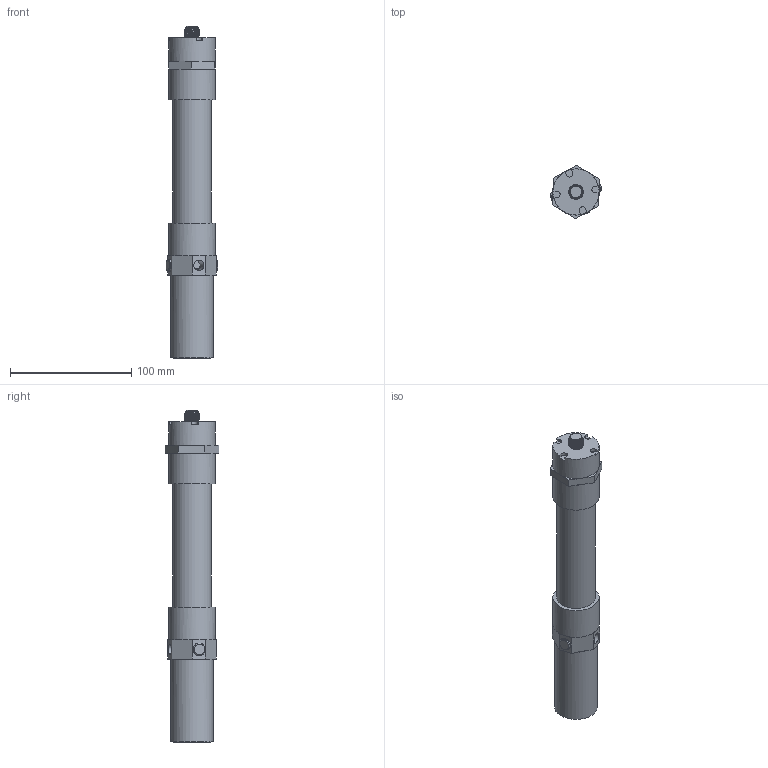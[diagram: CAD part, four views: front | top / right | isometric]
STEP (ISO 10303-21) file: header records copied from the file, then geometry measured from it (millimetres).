
FILE_DESCRIPTION(/* description */ (''),/* implementation_level */ '2;1');
FILE_NAME(/* name */ 'ASSY,VFIA,22MM,CLAMP MOUNT,100MM,S3 (614-49491) STEP FILE - REV C.stp',/* time_stamp */ '2026-01-21T08:19:23-05:00',/* author */ ('ASSY,VFIA,22MM,CLAMP MOUNT,100MM,S3'),/* organization */ ('CenterLine (Windsor) Limited'),/* preprocessor_version */ 'ST-DEVELOPER v20',/* originating_system */ 'Autodesk Inventor 2024',/* authorisation */ '');
FILE_SCHEMA (('AUTOMOTIVE_DESIGN { 1 0 10303 214 3 1 1 }'));
Length unit declared in the file: centimetre
Products named in the file (2): Assembly3; [Primary]_ASSY,VFIA,22MM,CLAMP MOUNT,100MM,S3
Assembly tree (1 placements, depth 2):
  Assembly3
    [Primary]_ASSY,VFIA,22MM,CLAMP MOUNT,100MM,S3
Bounding box: 42.81 x 43.98 x 273.87 mm (x, y, z)
Volume: 252519.1 mm3; surface area: 33841.7 mm2
Topology: 1 solids, 1 shells, 117 faces, 283 edges, 178 vertices
Faces by surface type: plane 73, cylinder 25, bspline 9, cone 8, torus 2
Full cylindrical faces by diameter (mm): 8.731 x2, 10 x1, 10.6 x2, 12 x5, 31.75 x1, 34.925 x1, 38.1 x3
Entity records: 8923 total; most frequent: CARTESIAN_POINT 6137, ORIENTED_EDGE 566, DIRECTION 566, EDGE_CURVE 283, AXIS2_PLACEMENT_3D 209, VERTEX_POINT 177, LINE 148, VECTOR 148
